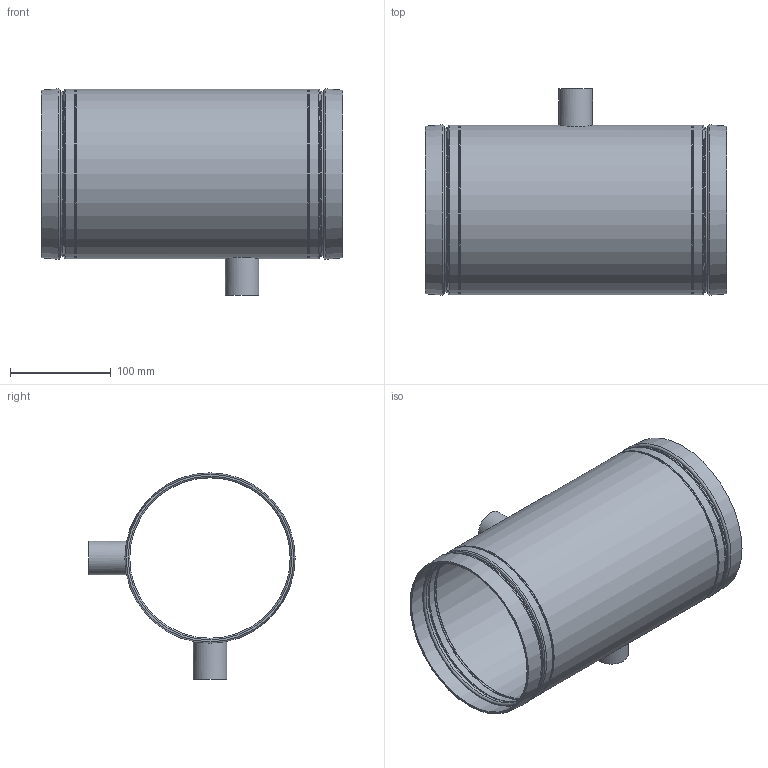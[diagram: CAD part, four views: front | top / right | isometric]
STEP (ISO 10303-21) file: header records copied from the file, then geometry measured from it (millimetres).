
FILE_DESCRIPTION(/* description */ ('VIC STRENGTHIN NIPPLE No E494I','CAx-IF Rec.Pracs.---Representation and Presentation of Product Manufacturing Information (PMI)---4.0---2014-10-13'),/* implementation_level */ '2;1');
FILE_NAME(/* name */ 'C:\ST100\STEP\Victaulic_SS-StrengThin 100_Nipple Instrumentation_No E494I (ST1)\Victaulic_SS-StrengThin 100_Nipple Instrumentation_No E494I (ST1)_6 (150).stp',/* time_stamp */ '2021-06-17T18:16:33+06:00',/* author */ ('kkamble'),/* organization */ ('Victaulic'),/* preprocessor_version */ 'ST-DEVELOPER v17.2',/* originating_system */ 'Autodesk Inventor 2019',/* authorisation */ '');
FILE_SCHEMA (('AP242_MANAGED_MODEL_BASED_3D_ENGINEERING_MIM_LF { 1 0 10303 442 1 1 4 }'));
Length unit declared in the file: inch
Products named in the file (1): E494I-06.0
Bounding box: 299.72 x 204.73 x 204.73 mm (x, y, z)
Volume: 355538 mm3; surface area: 332754.6 mm2
Topology: 1 solids, 1 shells, 60 faces, 196 edges, 146 vertices
Faces by surface type: torus 26, cylinder 16, plane 10, cone 8
Full cylindrical faces by diameter (mm): 21.336 x2, 26.67 x2, 33.401 x2, 159.207 x2, 163.271 x2, 164.211 x3, 168.275 x3
Entity records: 2720 total; most frequent: CARTESIAN_POINT 620, DIRECTION 500, ORIENTED_EDGE 392, AXIS2_PLACEMENT_3D 238, EDGE_CURVE 196, CIRCLE 164, VERTEX_POINT 146, EDGE_LOOP 74
